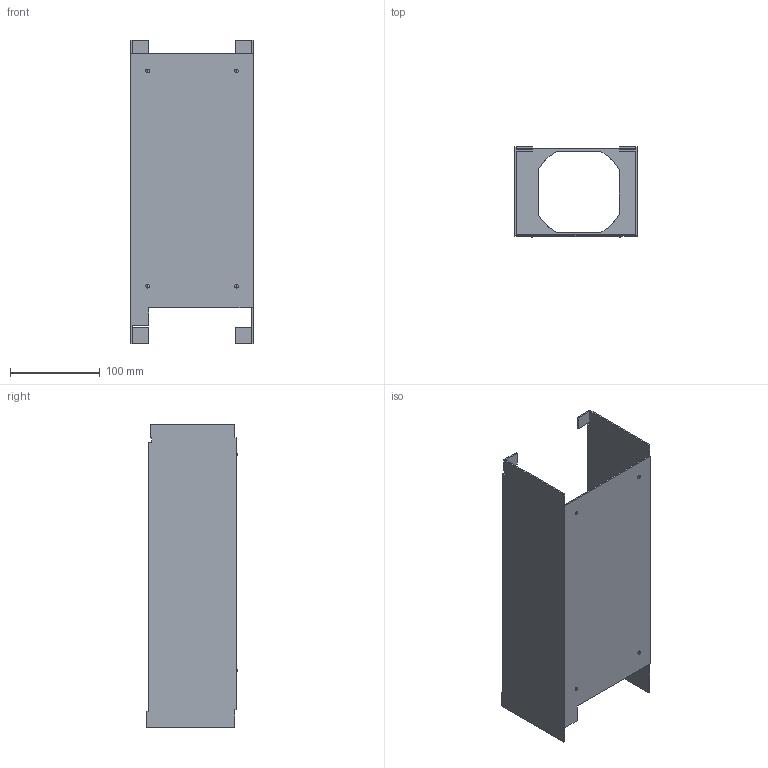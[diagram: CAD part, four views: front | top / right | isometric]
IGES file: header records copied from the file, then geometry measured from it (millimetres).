
Start section:  PTC IGES file: j4-du9-11k-fincover.igs
Global section: file name: j4-du9-11k-fincover.igs; native system: Creo Parametric by Parametric Technology Corporation; preprocessor: 2014310; author: JR20012; organization: Unknown; date: 20160927.133802; units: millimetre
Bounding box: 136 x 101 x 338 mm (x, y, z)
Volume: 177360.3 mm3; surface area: 224463.5 mm2
Topology: 1 solids, 1 shells, 68 faces, 190 edges, 116 vertices
Faces by surface type: bspline 68
